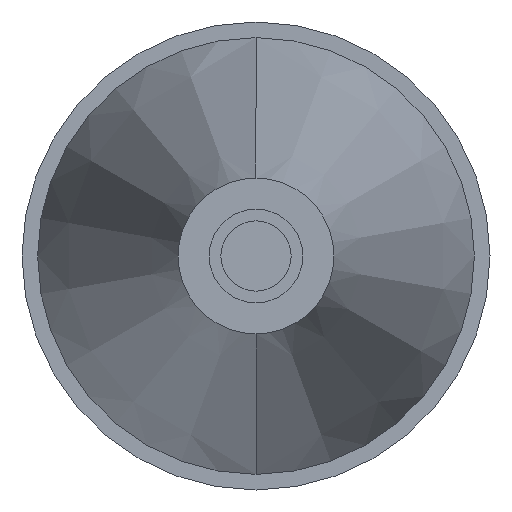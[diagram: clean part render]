
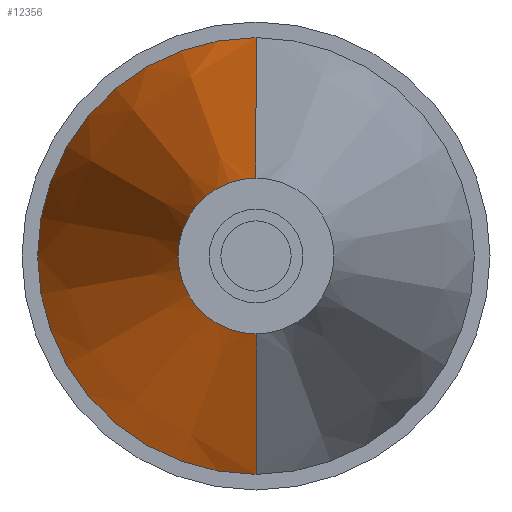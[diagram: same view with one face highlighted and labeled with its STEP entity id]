
A CAD part, front view. The second image highlights one B-rep face of the part: STEP entity #12356.
In plain terms, the highlighted conical face has half-angle 13.5 degrees and reference radius 2.8 mm.
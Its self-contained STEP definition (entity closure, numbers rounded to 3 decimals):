
#923 = CARTESIAN_POINT ( 'NONE',  ( 0., -16.5, -0.999 ) ) ;
#1081 = EDGE_CURVE ( 'NONE', #22355, #19605, #12256, .T. ) ;
#1144 = DIRECTION ( 'NONE',  ( 0., 0.972, -0.233 ) ) ;
#3058 = ORIENTED_EDGE ( 'NONE', *, *, #12109, .T. ) ;
#4845 = AXIS2_PLACEMENT_3D ( 'NONE', #7605, #18778, #14933 ) ;
#5185 = CIRCLE ( 'NONE', #21755, 0.999 ) ;
#7605 = CARTESIAN_POINT ( 'NONE',  ( 0., -9., 0. ) ) ;
#8195 = DIRECTION ( 'NONE',  ( 0., 0., -1. ) ) ;
#9126 = FACE_OUTER_BOUND ( 'NONE', #18474, .T. ) ;
#10290 = CONICAL_SURFACE ( 'NONE', #4845, 2.8, 0.236 ) ;
#10466 = EDGE_CURVE ( 'NONE', #11409, #10915, #15268, .T. ) ;
#10915 = VERTEX_POINT ( 'NONE', #22188 ) ;
#11409 = VERTEX_POINT ( 'NONE', #923 ) ;
#11890 = EDGE_CURVE ( 'NONE', #22355, #11409, #5185, .T. ) ;
#12109 = EDGE_CURVE ( 'NONE', #19605, #10915, #20822, .T. ) ;
#12209 = DIRECTION ( 'NONE',  ( 0., 0.972, 0.233 ) ) ;
#12256 = LINE ( 'NONE', #21208, #20777 ) ;
#12356 = ADVANCED_FACE ( 'NONE', ( #9126 ), #10290, .T. ) ;
#13918 = CARTESIAN_POINT ( 'NONE',  ( 0., -16.5, 0. ) ) ;
#14933 = DIRECTION ( 'NONE',  ( 0., 0., -1. ) ) ;
#15268 = LINE ( 'NONE', #22844, #17270 ) ;
#16309 = DIRECTION ( 'NONE',  ( 0., -1., 0. ) ) ;
#17195 = AXIS2_PLACEMENT_3D ( 'NONE', #22025, #16309, #20208 ) ;
#17270 = VECTOR ( 'NONE', #1144, 1000. ) ;
#18474 = EDGE_LOOP ( 'NONE', ( #22235, #21001, #3058, #18722 ) ) ;
#18722 = ORIENTED_EDGE ( 'NONE', *, *, #10466, .F. ) ;
#18778 = DIRECTION ( 'NONE',  ( 0., 1., 0. ) ) ;
#19036 = CARTESIAN_POINT ( 'NONE',  ( 0., -9., 2.8 ) ) ;
#19292 = DIRECTION ( 'NONE',  ( 0., -1., 0. ) ) ;
#19605 = VERTEX_POINT ( 'NONE', #19036 ) ;
#20208 = DIRECTION ( 'NONE',  ( 0., 0., -1. ) ) ;
#20592 = CARTESIAN_POINT ( 'NONE',  ( 0., -16.5, 0.999 ) ) ;
#20777 = VECTOR ( 'NONE', #12209, 1000. ) ;
#20822 = CIRCLE ( 'NONE', #17195, 2.8 ) ;
#21001 = ORIENTED_EDGE ( 'NONE', *, *, #1081, .T. ) ;
#21208 = CARTESIAN_POINT ( 'NONE',  ( 0., -9., 2.8 ) ) ;
#21755 = AXIS2_PLACEMENT_3D ( 'NONE', #13918, #19292, #8195 ) ;
#22025 = CARTESIAN_POINT ( 'NONE',  ( 0., -9., 0. ) ) ;
#22188 = CARTESIAN_POINT ( 'NONE',  ( 0., -9., -2.8 ) ) ;
#22235 = ORIENTED_EDGE ( 'NONE', *, *, #11890, .F. ) ;
#22355 = VERTEX_POINT ( 'NONE', #20592 ) ;
#22844 = CARTESIAN_POINT ( 'NONE',  ( 0., -9., -2.8 ) ) ;
